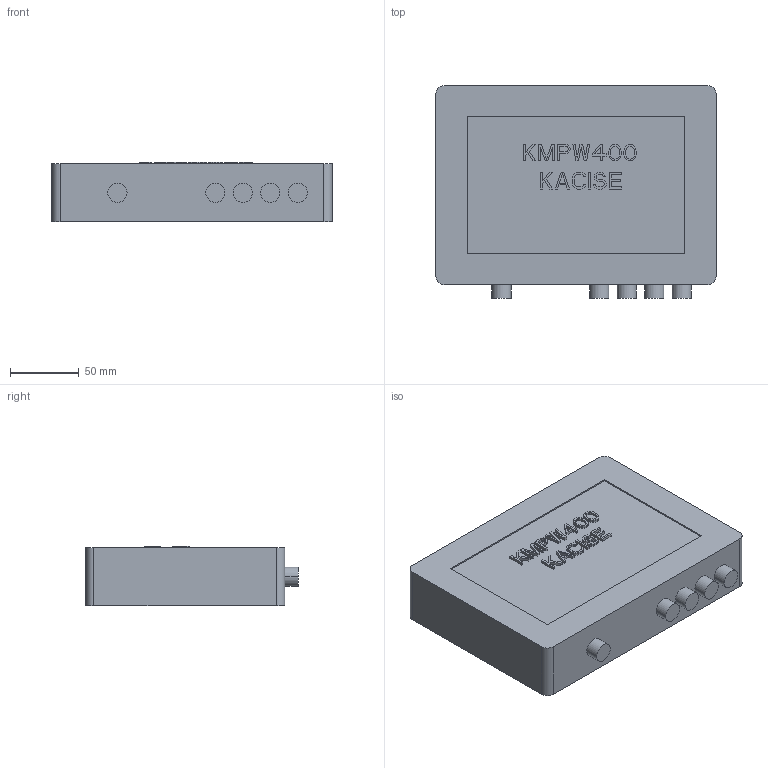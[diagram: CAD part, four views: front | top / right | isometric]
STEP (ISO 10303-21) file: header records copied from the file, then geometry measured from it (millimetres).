
FILE_DESCRIPTION((''),'2;1');
FILE_NAME('PRT0087','2026-01-23T14:20:19',('28740194'),(''),'CREO PARAMETRIC BY PTC INC, 2024063','CREO PARAMETRIC BY PTC INC, 2024063','');
FILE_SCHEMA(('CONFIG_CONTROL_DESIGN'));
Length unit declared in the file: millimetre
Products named in the file (1): PRT0087
Bounding box: 204 x 155 x 43.5 mm (x, y, z)
Volume: 1248470.7 mm3; surface area: 92944.8 mm2
Topology: 1 solids, 1 shells, 371 faces, 1017 edges, 678 vertices
Faces by surface type: plane 341, cylinder 30
Entity records: 11609 total; most frequent: CARTESIAN_POINT 2066, ORIENTED_EDGE 2034, DIRECTION 1819, EDGE_CURVE 1017, VECTOR 957, LINE 957, VERTEX_POINT 678, AXIS2_PLACEMENT_3D 431
